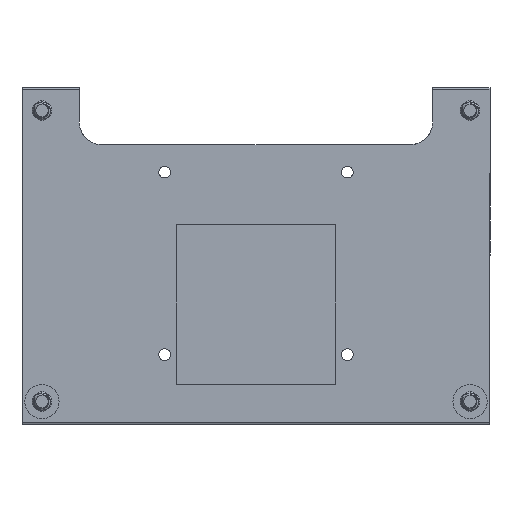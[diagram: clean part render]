
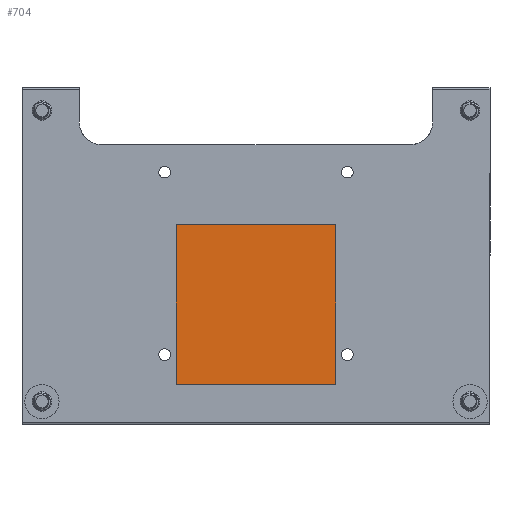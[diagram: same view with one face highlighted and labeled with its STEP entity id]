
A CAD part, front view. The second image highlights one B-rep face of the part: STEP entity #704.
In plain terms, the highlighted planar face has unit normal (0, -1, 0).
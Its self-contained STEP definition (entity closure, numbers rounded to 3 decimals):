
#249 = DIRECTION ( 'NONE',  ( 1., 0., 0. ) ) ;
#704 = ADVANCED_FACE ( 'NONE', ( #9101 ), #5068, .F. ) ;
#806 = ORIENTED_EDGE ( 'NONE', *, *, #11208, .F. ) ;
#914 = VECTOR ( 'NONE', #9877, 1000. ) ;
#1222 = VECTOR ( 'NONE', #11775, 1000. ) ;
#1321 = LINE ( 'NONE', #5682, #4643 ) ;
#2679 = EDGE_CURVE ( 'NONE', #3036, #11470, #1321, .T. ) ;
#2978 = LINE ( 'NONE', #7339, #1222 ) ;
#3036 = VERTEX_POINT ( 'NONE', #4607 ) ;
#3283 = CARTESIAN_POINT ( 'NONE',  ( -14., 0., -14. ) ) ;
#3860 = VERTEX_POINT ( 'NONE', #5905 ) ;
#4607 = CARTESIAN_POINT ( 'NONE',  ( -14., 0., 14. ) ) ;
#4643 = VECTOR ( 'NONE', #249, 1000. ) ;
#5068 = PLANE ( 'NONE',  #11425 ) ;
#5298 = VERTEX_POINT ( 'NONE', #9489 ) ;
#5643 = ORIENTED_EDGE ( 'NONE', *, *, #2679, .F. ) ;
#5682 = CARTESIAN_POINT ( 'NONE',  ( -14., 0., 14. ) ) ;
#5905 = CARTESIAN_POINT ( 'NONE',  ( 14., 0., -14. ) ) ;
#6701 = CARTESIAN_POINT ( 'NONE',  ( 14., 0., 14. ) ) ;
#7147 = CARTESIAN_POINT ( 'NONE',  ( 0., 0., 0. ) ) ;
#7339 = CARTESIAN_POINT ( 'NONE',  ( -14., 0., -14. ) ) ;
#7358 = LINE ( 'NONE', #3283, #914 ) ;
#7974 = EDGE_CURVE ( 'NONE', #5298, #3036, #7358, .T. ) ;
#8363 = DIRECTION ( 'NONE',  ( 0., 0., 1. ) ) ;
#8485 = EDGE_CURVE ( 'NONE', #11470, #3860, #14138, .T. ) ;
#9101 = FACE_OUTER_BOUND ( 'NONE', #10023, .T. ) ;
#9354 = VECTOR ( 'NONE', #9780, 1000. ) ;
#9489 = CARTESIAN_POINT ( 'NONE',  ( -14., 0., -14. ) ) ;
#9710 = CARTESIAN_POINT ( 'NONE',  ( 14., 0., -14. ) ) ;
#9780 = DIRECTION ( 'NONE',  ( 0., 0., -1. ) ) ;
#9877 = DIRECTION ( 'NONE',  ( 0., 0., 1. ) ) ;
#10023 = EDGE_LOOP ( 'NONE', ( #13016, #5643, #11758, #806 ) ) ;
#11208 = EDGE_CURVE ( 'NONE', #3860, #5298, #2978, .T. ) ;
#11425 = AXIS2_PLACEMENT_3D ( 'NONE', #7147, #12321, #8363 ) ;
#11470 = VERTEX_POINT ( 'NONE', #6701 ) ;
#11758 = ORIENTED_EDGE ( 'NONE', *, *, #7974, .F. ) ;
#11775 = DIRECTION ( 'NONE',  ( -1., 0., 0. ) ) ;
#12321 = DIRECTION ( 'NONE',  ( 0., 1., 0. ) ) ;
#13016 = ORIENTED_EDGE ( 'NONE', *, *, #8485, .F. ) ;
#14138 = LINE ( 'NONE', #9710, #9354 ) ;
